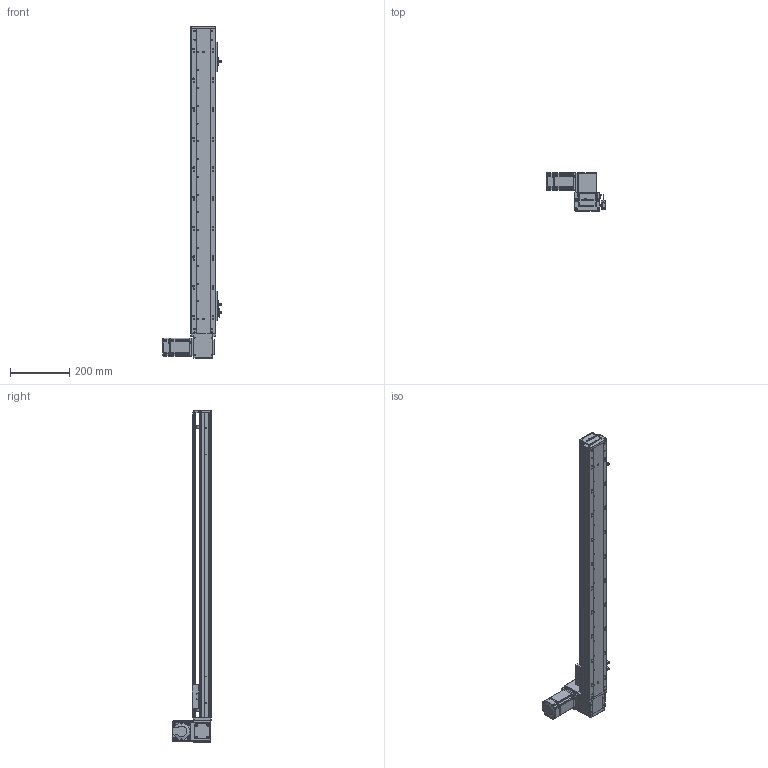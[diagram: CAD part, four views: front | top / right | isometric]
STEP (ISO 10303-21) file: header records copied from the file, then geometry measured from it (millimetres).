
FILE_DESCRIPTION (( 'STEP AP203' ), '1' );
FILE_NAME ('RY80-T-300-UL.SLDASM_850.step', '2021-03-01T02:17:00', ( '盈信电脑' ), ( '东莞市道滘镇水果街19号' ), 'SwSTEP 2.0', 'SolidWorks 2012', '' );
FILE_SCHEMA (( 'CONFIG_CONTROL_DESIGN' ));
Products named in the file (19): RY80-T-上下折同步轮盖板; RY80-T-M4蹟翐2; RY80-T-300-UL.SLDASM_850; 滅袉蝶18-10; 1; RY80-T肮祭謫奻殏俋欶; RY80-T翋肮祭謫裔啣; RY80-T肮祭湍揤輸2; RY80-T粣創揤踡輸; RY80-T萇儂假蚾啣; RY80-T肮祭湍揤輸1; 覜茼ん672; RY80俋离覜茼え; RY80-T-翋肮祭謫釱; RY80-T肮祭謫臏賑輸; RY80-T-300-UL倰第奻裔啣_850; 672嫖萇羲壽假蚾釱; RY80-T綴裔啣; RY80-T-300-UL倰第菁釱_850
Assembly tree (24 placements, depth 2):
  RY80-T-300-UL.SLDASM_850
    RY80-T-300-UL倰第菁釱_850
    RY80-T肮祭謫臏賑輸
    RY80-T-300-UL倰第奻裔啣_850
    RY80-T綴裔啣
    672嫖萇羲壽假蚾釱  x2
    覜茼ん672  x3
    RY80俋离覜茼え
    RY80-T-翋肮祭謫釱
    RY80-T肮祭湍揤輸1
    RY80-T肮祭湍揤輸2
    RY80-T萇儂假蚾啣
    RY80-T粣創揤踡輸  x2
    滅袉蝶18-10  x2
    RY80-T翋肮祭謫裔啣
    1
    RY80-T肮祭謫奻殏俋欶
    RY80-T-M4蹟翐2  x2
    RY80-T-上下折同步轮盖板
Bounding box: 198.7 x 130.5 x 1120 mm (x, y, z)
Volume: 1994761.2 mm3; surface area: 831813.7 mm2
Topology: 24 solids, 24 shells, 2613 faces, 7220 edges, 4689 vertices
Faces by surface type: plane 1370, cylinder 1035, cone 152, bspline 56
Entity records: 82899 total; most frequent: CARTESIAN_POINT 20892, ORIENTED_EDGE 12824, DIRECTION 11912, EDGE_CURVE 6412, VERTEX_POINT 4210, AXIS2_PLACEMENT_3D 4030, LINE 3852, VECTOR 3852
